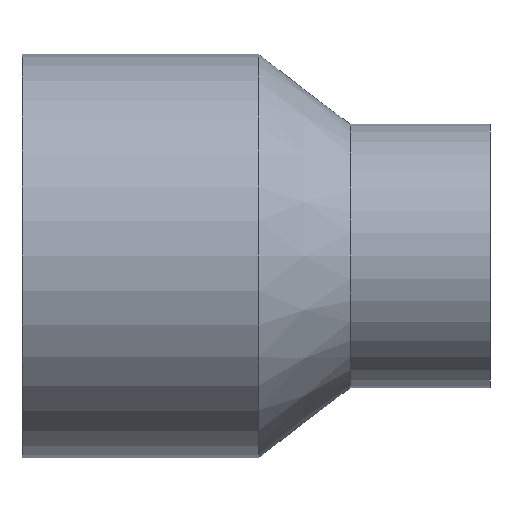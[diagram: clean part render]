
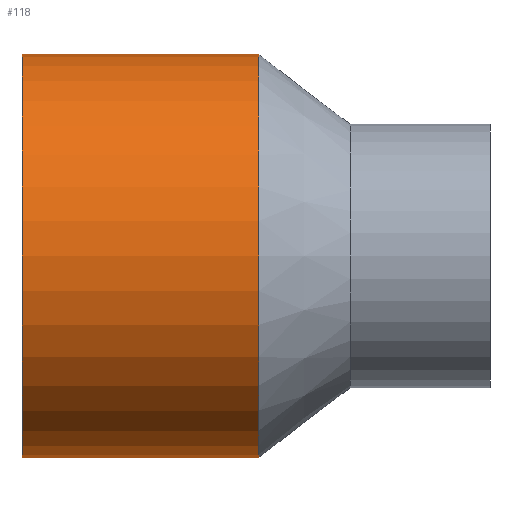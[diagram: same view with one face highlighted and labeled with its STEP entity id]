
A CAD part, front view. The second image highlights one B-rep face of the part: STEP entity #118.
In plain terms, the highlighted cylindrical face has radius 37.5 mm (diameter 75 mm), a full revolution.
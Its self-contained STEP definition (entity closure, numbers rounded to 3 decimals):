
#18=CYLINDRICAL_SURFACE('',#134,37.5);
#25=FACE_BOUND('',#49,.T.);
#35=FACE_OUTER_BOUND('',#48,.T.);
#48=EDGE_LOOP('',(#98));
#49=EDGE_LOOP('',(#99));
#65=CIRCLE('',#133,37.5);
#66=CIRCLE('',#135,37.5);
#75=VERTEX_POINT('',#199);
#76=VERTEX_POINT('',#202);
#85=EDGE_CURVE('',#75,#75,#65,.T.);
#86=EDGE_CURVE('',#76,#76,#66,.T.);
#98=ORIENTED_EDGE('',*,*,#85,.T.);
#99=ORIENTED_EDGE('',*,*,#86,.F.);
#118=ADVANCED_FACE('',(#35,#25),#18,.T.);
#133=AXIS2_PLACEMENT_3D('',#200,#161,#162);
#134=AXIS2_PLACEMENT_3D('',#201,#163,#164);
#135=AXIS2_PLACEMENT_3D('',#203,#165,#166);
#161=DIRECTION('center_axis',(-1.,0.,0.));
#162=DIRECTION('ref_axis',(0.,0.,1.));
#163=DIRECTION('center_axis',(-1.,0.,0.));
#164=DIRECTION('ref_axis',(0.,-1.,0.));
#165=DIRECTION('center_axis',(-1.,0.,0.));
#166=DIRECTION('ref_axis',(0.,0.,1.));
#199=CARTESIAN_POINT('',(0.5,-37.5,0.));
#200=CARTESIAN_POINT('Origin',(0.5,0.,0.));
#201=CARTESIAN_POINT('Origin',(-21.5,0.,0.));
#202=CARTESIAN_POINT('',(-43.5,-37.5,0.));
#203=CARTESIAN_POINT('Origin',(-43.5,0.,0.));
